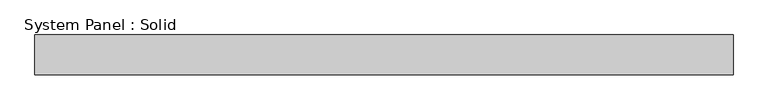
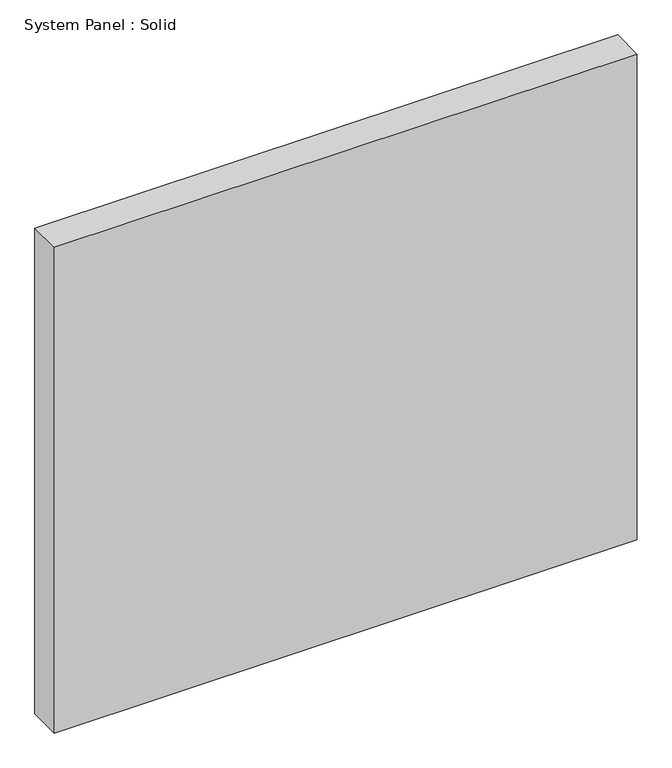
"""IFC4 building model written with IfcOpenShell, lengths in millimetres: plate geometry, System Panel : Solid."""

from ifc_helpers import new_model, si_unit, origin, origin_with_axes, place, context, project, spatial, polyline, outline, extrude, source, transform, mapped, element, save


def system_panel_solid_10c0fb46(model_context):
    return source(origin(), model_context, "Body", "SweptSolid", [
        extrude(outline(polyline([(525.0, -49.5), (-525.0, -49.5), (-525.0, 10.5), (525.0, 10.5), (525.0, -49.5)])), origin_with_axes(), (0.0, 0.0, 1.0), 925.0),
    ])


if __name__ == "__main__":
    model = new_model("IFC4")
    model_context = context("Model", 3, world=origin())
    ifc_project = project(units=[si_unit("LENGTHUNIT", "METRE", prefix="MILLI")], contexts=[model_context])
    site = spatial("IfcSite", under=ifc_project)
    building = spatial("IfcBuilding", under=site)
    placement = place(None, origin())
    system_panel_solid_shape = system_panel_solid_10c0fb46(model_context)
    element("IfcPlate", 1, ObjectType="System Panel : Solid", at=placement, inside=building, context=model_context, shape_type="MappedRepresentation", body=[
        mapped(system_panel_solid_shape, transform((0.0, 0.0, 0.0), x_axis=(1.0, 0.0, 0.0), y_axis=(0.0, 1.0, 0.0), z_axis=(0.0, 0.0, 1.0))),
    ])
    save(model, "model.ifc")
